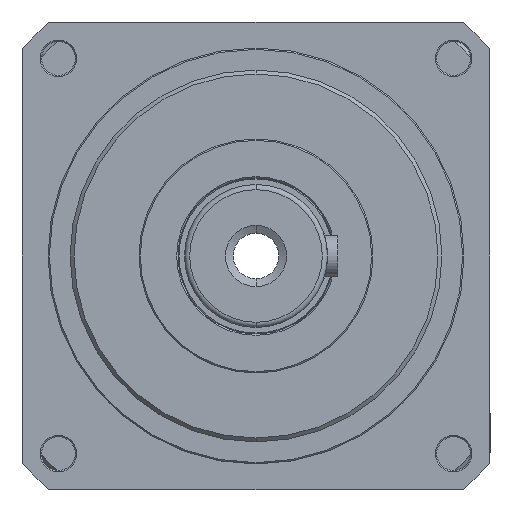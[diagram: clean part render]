
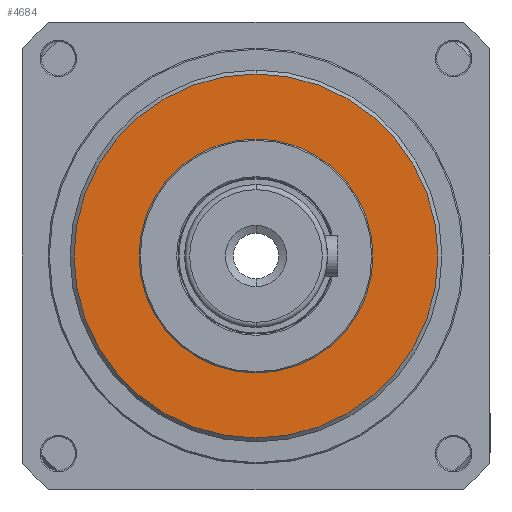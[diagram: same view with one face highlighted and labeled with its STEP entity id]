
A CAD part, left-side view. The second image highlights one B-rep face of the part: STEP entity #4684.
In plain terms, the highlighted planar face has unit normal (1, 0, 0).
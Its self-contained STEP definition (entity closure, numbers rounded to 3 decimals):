
#194 = CARTESIAN_POINT ( 'NONE',  ( -67.75, 0., 0. ) ) ;
#707 = AXIS2_PLACEMENT_3D ( 'NONE', #7497, #8733, #12344 ) ;
#938 = EDGE_CURVE ( 'NONE', #5891, #8843, #6803, .T. ) ;
#1071 = DIRECTION ( 'NONE',  ( 0., 1., 0. ) ) ;
#1483 = ORIENTED_EDGE ( 'NONE', *, *, #938, .T. ) ;
#2750 = ORIENTED_EDGE ( 'NONE', *, *, #5753, .F. ) ;
#2854 = DIRECTION ( 'NONE',  ( -1., 0., 0. ) ) ;
#3384 = AXIS2_PLACEMENT_3D ( 'NONE', #194, #2854, #11700 ) ;
#3444 = CARTESIAN_POINT ( 'NONE',  ( -67.75, 0., 45. ) ) ;
#4684 = ADVANCED_FACE ( 'NONE', ( #6648, #14955 ), #7358, .F. ) ;
#5220 = CARTESIAN_POINT ( 'NONE',  ( -67.75, 0., 0. ) ) ;
#5656 = CIRCLE ( 'NONE', #16331, 70. ) ;
#5753 = EDGE_CURVE ( 'NONE', #7620, #15503, #5656, .T. ) ;
#5891 = VERTEX_POINT ( 'NONE', #15810 ) ;
#6385 = ORIENTED_EDGE ( 'NONE', *, *, #9075, .T. ) ;
#6648 = FACE_OUTER_BOUND ( 'NONE', #6840, .T. ) ;
#6803 = CIRCLE ( 'NONE', #3384, 45. ) ;
#6840 = EDGE_LOOP ( 'NONE', ( #11948, #2750 ) ) ;
#7358 = PLANE ( 'NONE',  #10720 ) ;
#7497 = CARTESIAN_POINT ( 'NONE',  ( -67.75, 0., 0. ) ) ;
#7620 = VERTEX_POINT ( 'NONE', #10446 ) ;
#7889 = CIRCLE ( 'NONE', #12989, 70. ) ;
#8733 = DIRECTION ( 'NONE',  ( -1., 0., 0. ) ) ;
#8760 = DIRECTION ( 'NONE',  ( -1., 0., 0. ) ) ;
#8843 = VERTEX_POINT ( 'NONE', #3444 ) ;
#9075 = EDGE_CURVE ( 'NONE', #8843, #5891, #9087, .T. ) ;
#9087 = CIRCLE ( 'NONE', #707, 45. ) ;
#10161 = CARTESIAN_POINT ( 'NONE',  ( -67.75, 0., -70. ) ) ;
#10446 = CARTESIAN_POINT ( 'NONE',  ( -67.75, 0., 70. ) ) ;
#10545 = EDGE_CURVE ( 'NONE', #15503, #7620, #7889, .T. ) ;
#10720 = AXIS2_PLACEMENT_3D ( 'NONE', #16192, #8760, #1071 ) ;
#11409 = CARTESIAN_POINT ( 'NONE',  ( -67.75, 0., 0. ) ) ;
#11700 = DIRECTION ( 'NONE',  ( 0., 0., 1. ) ) ;
#11948 = ORIENTED_EDGE ( 'NONE', *, *, #10545, .F. ) ;
#12344 = DIRECTION ( 'NONE',  ( 0., 0., 1. ) ) ;
#12548 = DIRECTION ( 'NONE',  ( -1., 0., 0. ) ) ;
#12705 = DIRECTION ( 'NONE',  ( 0., 0., -1. ) ) ;
#12989 = AXIS2_PLACEMENT_3D ( 'NONE', #5220, #15479, #15415 ) ;
#13803 = EDGE_LOOP ( 'NONE', ( #6385, #1483 ) ) ;
#14955 = FACE_BOUND ( 'NONE', #13803, .T. ) ;
#15415 = DIRECTION ( 'NONE',  ( 0., 0., -1. ) ) ;
#15479 = DIRECTION ( 'NONE',  ( -1., 0., 0. ) ) ;
#15503 = VERTEX_POINT ( 'NONE', #10161 ) ;
#15810 = CARTESIAN_POINT ( 'NONE',  ( -67.75, 0., -45. ) ) ;
#16192 = CARTESIAN_POINT ( 'NONE',  ( -67.75, -70.84, 70.84 ) ) ;
#16331 = AXIS2_PLACEMENT_3D ( 'NONE', #11409, #12548, #12705 ) ;
